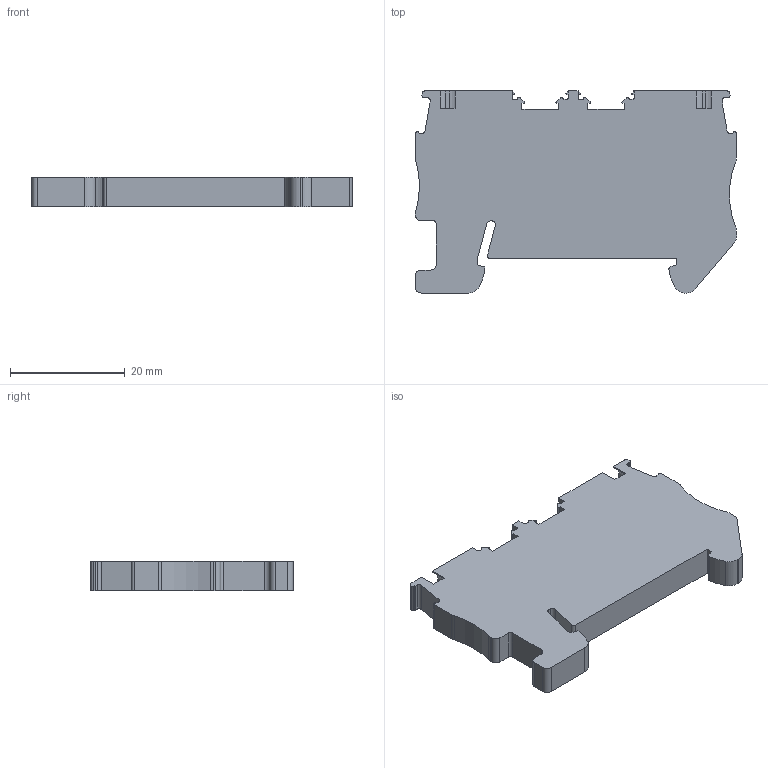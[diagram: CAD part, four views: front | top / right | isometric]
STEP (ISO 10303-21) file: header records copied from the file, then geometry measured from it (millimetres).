
FILE_DESCRIPTION(('SolidDesigner STEP Export'),'2;1');
FILE_NAME('3270109_PTC_2.5_MTD_BU-select.stp','2014-05-19T11:42:58',(''),(''),'Creo Elements/Direct Modeling STEP processor for AP214 (Solid Model)','Creo Elements/Direct Modeling 18.1 06-May-2012 (C) Parametric Technology GmbH','');
FILE_SCHEMA(('AUTOMOTIVE_DESIGN { 1 0 10303 214 1 1 1 1 }'));
Length unit declared in the file: millimetre
Products named in the file (2): 3270109_PTC_2.5_MTD_BU-select
Assembly tree (1 placements, depth 2):
  3270109_PTC_2.5_MTD_BU-select
    3270109_PTC_2.5_MTD_BU-select
Bounding box: 56 x 35.25 x 5.15 mm (x, y, z)
Volume: 8102.6 mm3; surface area: 4492.1 mm2
Topology: 1 solids, 1 shells, 180 faces, 521 edges, 347 vertices
Faces by surface type: plane 113, cylinder 67
Entity records: 7349 total; most frequent: ORIENTED_EDGE 1042, CARTESIAN_POINT 1036, DIRECTION 994, EDGE_CURVE 521, VECTOR 384, LINE 384, VERTEX_POINT 347, AXIS2_PLACEMENT_3D 305
